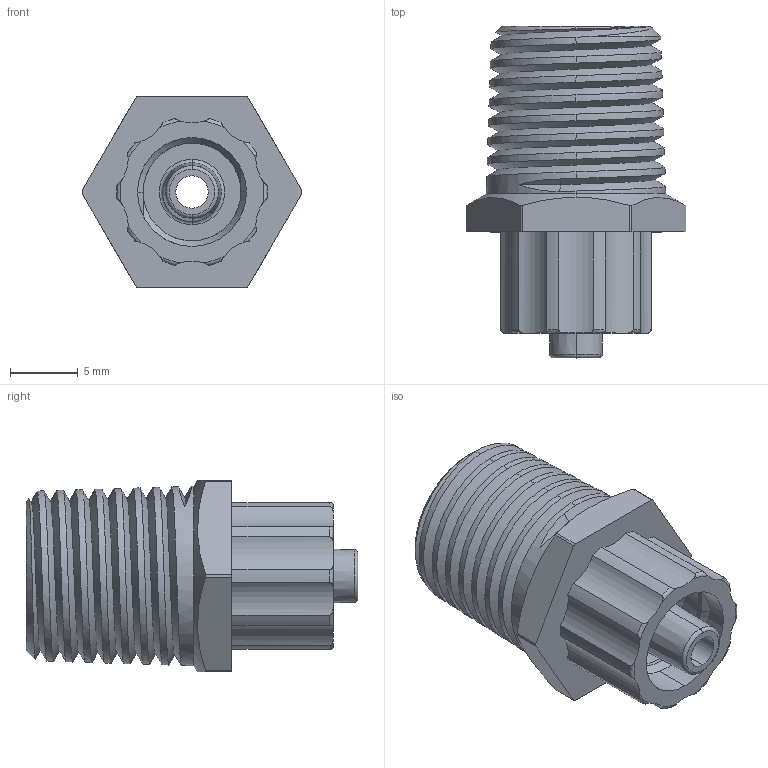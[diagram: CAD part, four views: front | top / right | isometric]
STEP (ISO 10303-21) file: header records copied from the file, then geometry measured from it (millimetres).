
FILE_DESCRIPTION(('FreeCAD Model'),'2;1');
FILE_NAME('Open CASCADE Shape Model','2025-01-31T14:51:29',('Author'),( ''),'Open CASCADE STEP processor 7.6','FreeCAD','Unknown');
FILE_SCHEMA(('AUTOMOTIVE_DESIGN { 1 0 10303 214 1 1 1 1 }'));
Length unit declared in the file: millimetre
Products named in the file (1): NORDSONEFD-7016948
Bounding box: 16.18 x 24.41 x 14.1 mm (x, y, z)
Volume: 1551.4 mm3; surface area: 2133.9 mm2
Topology: 1 solids, 1 shells, 104 faces, 280 edges, 182 vertices
Faces by surface type: cylinder 33, cone 26, plane 21, torus 16, bspline 8
Entity records: 6341 total; most frequent: CARTESIAN_POINT 3850, ORIENTED_EDGE 560, DIRECTION 478, EDGE_CURVE 280, AXIS2_PLACEMENT_3D 195, VERTEX_POINT 182, FACE_BOUND 110, EDGE_LOOP 110
